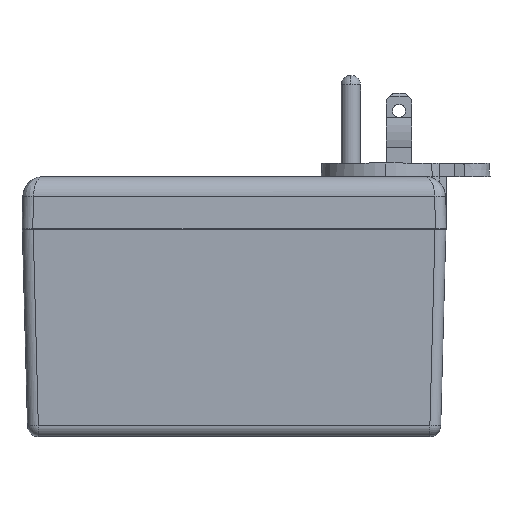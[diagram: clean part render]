
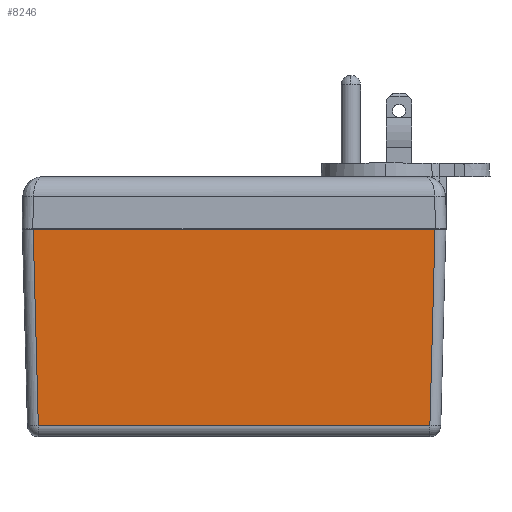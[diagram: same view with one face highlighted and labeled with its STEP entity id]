
A CAD part, top view. The second image highlights one B-rep face of the part: STEP entity #8246.
In plain terms, the highlighted planar face has unit normal (0, -0.026, 1).
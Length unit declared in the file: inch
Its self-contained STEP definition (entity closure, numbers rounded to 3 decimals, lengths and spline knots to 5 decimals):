
#2826 = DIRECTION ( 'NONE',  ( 1., 0., 0. ) ) ;
#2872 = CARTESIAN_POINT ( 'NONE',  ( -2.0545, -1.90275, 1.06617 ) ) ;
#3787 = DIRECTION ( 'NONE',  ( 1., 0., 0. ) ) ;
#3788 = CARTESIAN_POINT ( 'NONE',  ( -2.0545, 0., 1.116 ) ) ;
#3789 = DIRECTION ( 'NONE',  ( 0.026, -0.999, -0.026 ) ) ;
#3790 = CARTESIAN_POINT ( 'NONE',  ( -1.94961, 0.00274, 1.11607 ) ) ;
#3791 = DIRECTION ( 'NONE',  ( 0.026, 0.999, 0.026 ) ) ;
#3792 = CARTESIAN_POINT ( 'NONE',  ( 1.94679, -0.10471, 1.11326 ) ) ;
#6056 = VERTEX_POINT ( 'NONE', #14846 ) ;
#6057 = VERTEX_POINT ( 'NONE', #14845 ) ;
#6065 = VERTEX_POINT ( 'NONE', #14835 ) ;
#6074 = VERTEX_POINT ( 'NONE', #14823 ) ;
#8246 = ADVANCED_FACE ( 'NONE', ( #11324 ), #16675, .T. ) ;
#11324 = FACE_OUTER_BOUND ( 'NONE', #16880, .T. ) ;
#11919 = EDGE_CURVE ( 'NONE', #6056, #6057, #19505, .T. ) ;
#11936 = EDGE_CURVE ( 'NONE', #6057, #6065, #19476, .T. ) ;
#11937 = EDGE_CURVE ( 'NONE', #6074, #6056, #19474, .T. ) ;
#11938 = EDGE_CURVE ( 'NONE', #6074, #6065, #19471, .T. ) ;
#14823 = CARTESIAN_POINT ( 'NONE',  ( -1.94954, 0., 1.116 ) ) ;
#14835 = CARTESIAN_POINT ( 'NONE',  ( 1.94954, 0., 1.116 ) ) ;
#14845 = CARTESIAN_POINT ( 'NONE',  ( 1.89971, -1.90275, 1.06617 ) ) ;
#14846 = CARTESIAN_POINT ( 'NONE',  ( -1.89971, -1.90275, 1.06617 ) ) ;
#16654 = ORIENTED_EDGE ( 'NONE', *, *, #11937, .T. ) ;
#16657 = ORIENTED_EDGE ( 'NONE', *, *, #11938, .F. ) ;
#16660 = ORIENTED_EDGE ( 'NONE', *, *, #11936, .T. ) ;
#16663 = ORIENTED_EDGE ( 'NONE', *, *, #11919, .T. ) ;
#16666 = DIRECTION ( 'NONE',  ( 0., -1., -0.026 ) ) ;
#16668 = DIRECTION ( 'NONE',  ( 0., -0.026, 1. ) ) ;
#16675 = PLANE ( 'NONE',  #20224 ) ;
#16678 = CARTESIAN_POINT ( 'NONE',  ( -2.0545, 0., 1.116 ) ) ;
#16880 = EDGE_LOOP ( 'NONE', ( #16663, #16660, #16657, #16654 ) ) ;
#19470 = VECTOR ( 'NONE', #3787, 39.37008 ) ;
#19471 = LINE ( 'NONE', #3788, #19470 ) ;
#19472 = VECTOR ( 'NONE', #3789, 39.37008 ) ;
#19474 = LINE ( 'NONE', #3790, #19472 ) ;
#19475 = VECTOR ( 'NONE', #3791, 39.37008 ) ;
#19476 = LINE ( 'NONE', #3792, #19475 ) ;
#19505 = LINE ( 'NONE', #2872, #19513 ) ;
#19513 = VECTOR ( 'NONE', #2826, 39.37008 ) ;
#20224 = AXIS2_PLACEMENT_3D ( 'NONE', #16678, #16668, #16666 ) ;
